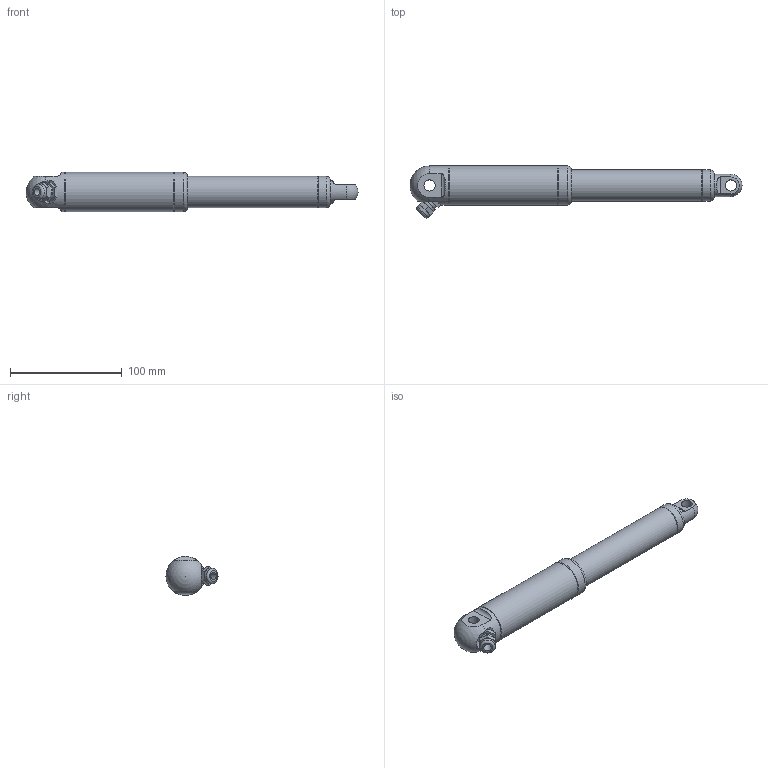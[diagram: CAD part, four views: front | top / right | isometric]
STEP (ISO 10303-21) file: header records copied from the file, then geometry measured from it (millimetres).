
FILE_DESCRIPTION(/* description */ ('STEP AP203'),/* implementation_level */ '2;1');
FILE_NAME(/* name */ '350100-273216E020000_0-0',/* time_stamp */ '2026-02-25T11:18:21+01:00',/* author */ ('License CC BY-ND 4.0'),/* organization */ ('CADENAS'),/* preprocessor_version */ 'ST-DEVELOPER v20',/* originating_system */ 'PARTsolutions',/* authorisation */ ' ');
FILE_SCHEMA (('CONFIG_CONTROL_DESIGN'));
Length unit declared in the file: millimetre
Products named in the file (6): 350100-273216E020000_0-0; 350100273E200---(2_b)---(Shortened view 0); 35010002---(2_p)---(Shortened view 0); 352---(bp); 3500---(r); 35162E0---(bb)
Assembly tree (5 placements, depth 2):
  350100-273216E020000_0-0
    350100273E200---(2_b)---(Shortened view 0)
    35010002---(2_p)---(Shortened view 0)
    352---(bp)
    3500---(r)
    35162E0---(bb)
Bounding box: 297.5 x 46.67 x 35 mm (x, y, z)
Volume: 198489.4 mm3; surface area: 54874.4 mm2
Topology: 5 solids, 5 shells, 73 faces, 154 edges, 99 vertices
Faces by surface type: plane 37, cylinder 23, cone 8, torus 3, sphere 2
Full cylindrical faces by diameter (mm): 7 x1, 10 x2, 10.5 x1, 13.7 x2, 20 x4, 23.7 x1, 24 x1, 28 x2, 28.2 x1, 35 x3
Entity records: 1909 total; most frequent: CARTESIAN_POINT 357, DIRECTION 322, ORIENTED_EDGE 228, AXIS2_PLACEMENT_3D 136, EDGE_LOOP 118, FACE_BOUND 118, EDGE_CURVE 114, VERTEX_POINT 90
